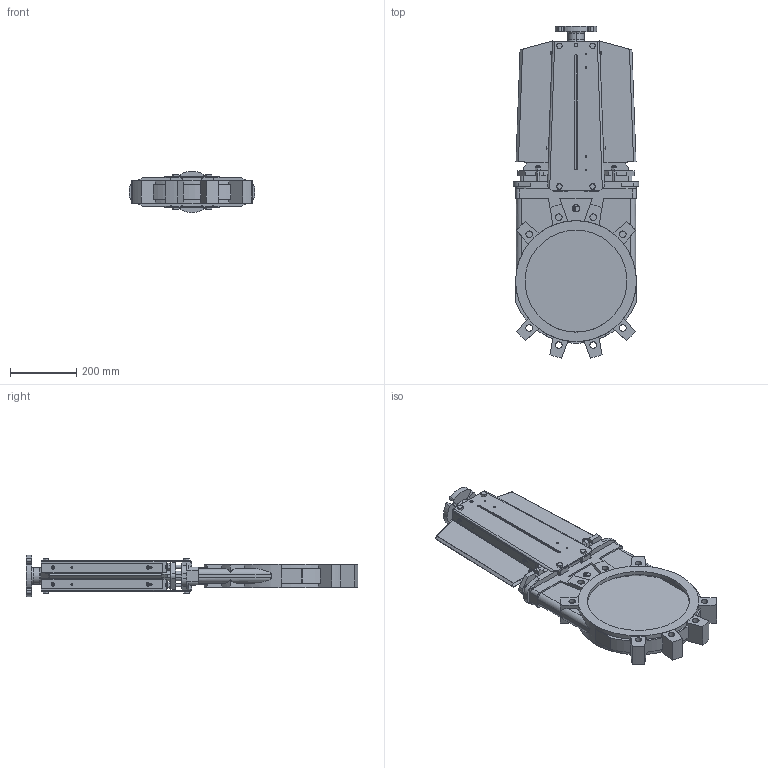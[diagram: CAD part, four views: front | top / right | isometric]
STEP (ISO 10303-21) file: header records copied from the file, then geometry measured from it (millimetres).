
FILE_DESCRIPTION (( 'STEP AP203' ), '1' );
FILE_NAME ('VG E A DN300.STEP', '2010-03-31T06:11:21', ( 'farex' ), ( '' ), 'SwSTEP 2.0', 'SolidWorks 2009', '' );
FILE_SCHEMA (( 'CONFIG_CONTROL_DESIGN' ));
Length unit declared in the file: millimetre
Products named in the file (1): VG E A DN300
Bounding box: 380 x 1002.55 x 124.79 mm (x, y, z)
Volume: 8568547.7 mm3; surface area: 1461466.9 mm2
Topology: 2 solids, 15 shells, 975 faces, 2519 edges, 1640 vertices
Faces by surface type: plane 568, cylinder 276, cone 75, bspline 40, torus 16
Entity records: 32777 total; most frequent: CARTESIAN_POINT 8866, ORIENTED_EDGE 5038, DIRECTION 4816, EDGE_CURVE 2519, VERTEX_POINT 1640, AXIS2_PLACEMENT_3D 1632, LINE 1552, VECTOR 1552
